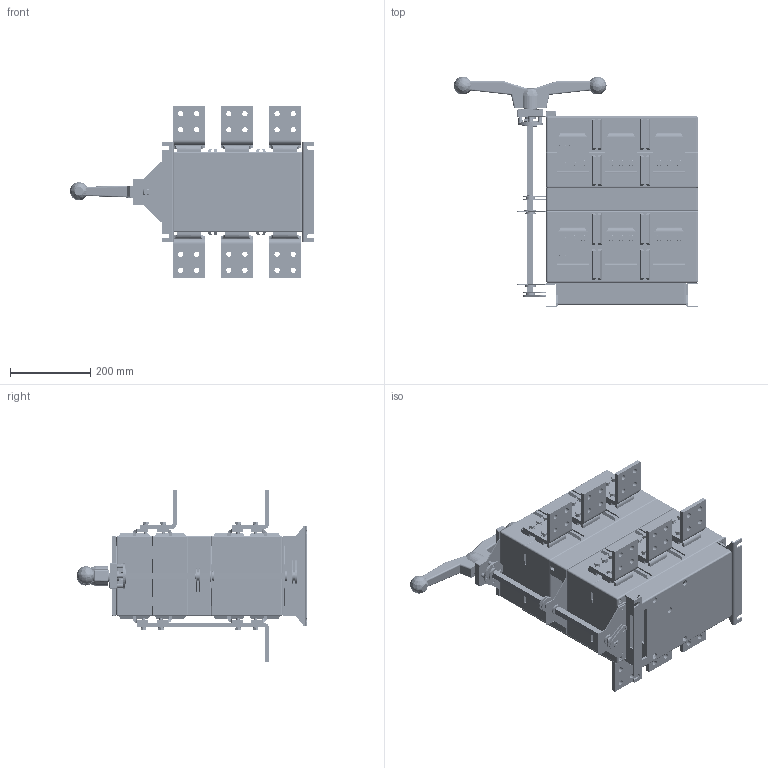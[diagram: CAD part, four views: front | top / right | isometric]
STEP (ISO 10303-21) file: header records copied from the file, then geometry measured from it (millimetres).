
FILE_DESCRIPTION((''),'2;1');
FILE_NAME('ASM0003_ASM','2024-01-24T',('zhuanghy'),(''),'CREO PARAMETRIC BY PTC INC, 2018070','CREO PARAMETRIC BY PTC INC, 2018070','');
FILE_SCHEMA(('AUTOMOTIVE_DESIGN { 1 0 10303 214 1 1 1 1 }'));
Products named in the file (313): NH40_2000______3_1_AF72_1_1_1_1; NH40_2000_________1_AF72_ASM__1_ASM; NH40_2000________A_1_1_AF24_1_2; NH40_2000_3__1_AF6_1_1_1_1; NH40_2000________B_1_1_AF9_1__1; NH40_2000________B_1_1_AF10_1_2; NH40_2000____1_AF3_1_1_1_1; NH40_2000_6__1_AF6_1_1_1_1; NH40_1250____-56747_1_AF6_1_1_1; NH40_2000________A_1_1_AF18_1_2; NH40_2000______3_1_AF73_1_1_1_1; NH40_2000_________1_AF73_ASM__1_ASM; NH40_1250____-34469_1_AF3_1_1_1; NH40_2000______3_1_AF74_1_1_1_1; NH40_2000_________1_AF74_ASM__1_ASM; NH40_1250____-55063_1_AF9_1_1_1; NH40_1250____-55063_1_AF10_1__1; NH40_2000_5__1_AF12_1_1_1_1; NH40_2000_6__1_AF7_1_1_1_1; NH40_2000______3_1_AF96_1_1_1_1; NH40_2000_________1_AF96_ASM__1_ASM; NH40_2000______3_1_AF75_1_1_1_1; NH40_2000_________1_AF75_ASM__1_ASM; NH40_1250____-56533_1_AF12_1__1; NH40_1250___-56316_1_AF2_1_1_1_; NH40_2000______3_1_AF76_1_1_1_1; NH40_2000_________1_AF76_ASM__1_ASM; NH40_1250____-35536_1_AF6_1_1_1; NH40_1250____B_1_AF3_1_1_1_1; NH40_2000________A_1_1_AF19_1_2; NH40_2000______3_1_AF77_1_1_1_1; NH40_2000_________1_AF77_ASM__1_ASM; NH40_2000_3__1_AF7_1_1_1_1; NH40_2000______3_1_AF78_1_1_1_1; NH40_2000_________1_AF78_ASM__1_ASM; NH40_2000______3_1_AF79_1_1_1_1; NH40_2000_________1_AF79_ASM__1_ASM; NH40_2000______3_1_AF97_1_1_1_1; NH40_2000_________1_AF97_ASM__1_ASM; NH40_2000______3_1_AF80_1_1_1_1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
Assembly tree (475 placements, depth 9):
  ASM0003_ASM
    NH40-2500-3CS_3P_202209_ASM
      NH40-2000-3CSASM_ASM_4_ASM
        NH40-2000-3CS_3P_202207_ASM_2_1_ASM
          1-NH40-2000-3CS_4P_202104_-___2_ASM
            NH40_2000_____2_1_AF3_ASM_1_A_1_ASM
              NH40_2000_________1_AF72_ASM__1_ASM
                NH40_2000______3_1_AF72_1_1_1_1
              NH40_2000________A_1_1_AF24_1_2
              NH40_2000_3__1_AF6_1_1_1_1
              NH40_2000________B_1_1_AF9_1__1
              NH40_2000________B_1_1_AF10_1_2
              NH40_2000____1_AF3_1_1_1_1
              NH40_2000_6__1_AF6_1_1_1_1
              NH40_1250____-56747_1_AF6_1_1_1
              NH40_2000________A_1_1_AF18_1_2
              NH40_2000_________1_AF73_ASM__1_ASM
                NH40_2000______3_1_AF73_1_1_1_1
              NH40_1250____-34469_1_AF3_1_1_1
              NH40_2000_________1_AF74_ASM__1_ASM
                NH40_2000______3_1_AF74_1_1_1_1
              NH40_1250____-55063_1_AF9_1_1_1
              NH40_1250____-55063_1_AF10_1__1
              NH40_2000_5__1_AF12_1_1_1_1
              NH40_2000_6__1_AF7_1_1_1_1
              NH40_2000_________1_AF96_ASM__1_ASM
                NH40_2000______3_1_AF96_1_1_1_1
              NH40_2000_________1_AF75_ASM__1_ASM
                NH40_2000______3_1_AF75_1_1_1_1
              NH40_1250____-56533_1_AF12_1__1
              NH40_1250___-56316_1_AF2_1_1_1_
              NH40_2000_________1_AF76_ASM__1_ASM
                NH40_2000______3_1_AF76_1_1_1_1
              NH40_1250____-35536_1_AF6_1_1_1
              NH40_1250____B_1_AF3_1_1_1_1
              NH40_2000________A_1_1_AF19_1_2
              NH40_2000_________1_AF77_ASM__1_ASM
                NH40_2000______3_1_AF77_1_1_1_1
              NH40_2000_3__1_AF7_1_1_1_1
              NH40_2000_________1_AF78_ASM__1_ASM
                NH40_2000______3_1_AF78_1_1_1_1
              NH40_2000_________1_AF79_ASM__1_ASM
                NH40_2000______3_1_AF79_1_1_1_1
              NH40_2000_________1_AF97_ASM__1_ASM
                NH40_2000______3_1_AF97_1_1_1_1
              NH40_2000_________1_AF80_ASM__1_ASM
                NH40_2000______3_1_AF80_1_1_1_1
              NH40_2000_________1_AF81_ASM__1_ASM
                NH40_2000______3_1_AF81_1_1_1_1
              NH40_2000_5__1_AF13_1_1_1_1
              NH40_1250____-35536_1_AF7_1_1_1
              NH40_2000_________1_AF82_ASM__1_ASM
                NH40_2000______3_1_AF82_1_1_1_1
              NH40_2000________B_1_1_AF12_1_2
              NH40_2000_________1_AF98_ASM__1_ASM
                NH40_2000______3_1_AF98_1_1_1_1
              NH40_2000_________1_AF99_ASM__1_ASM
                NH40_2000______3_1_AF99_1_1_1_1
              NH40_2000_________1_AF83_ASM__1_ASM
                NH40_2000______3_1_AF83_1_1_1_1
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Bounding box: 607.99 x 574.04 x 426.3 mm (x, y, z)
Volume: 30332938.3 mm3; surface area: 3699481.5 mm2
Topology: 373 solids, 373 shells, 6990 faces, 18026 edges, 12060 vertices
Faces by surface type: plane 3726, cylinder 2535, cone 450, extrusion 175, bspline 58, sphere 24, torus 22
Entity records: 172704 total; most frequent: CARTESIAN_POINT 38053, DIRECTION 21186, ORIENTED_EDGE 19362, EDGE_CURVE 9681, PRESENTATION_STYLE_ASSIGNMENT 9272, STYLED_ITEM 9272, CURVE_STYLE 9210, AXIS2_PLACEMENT_3D 7190
